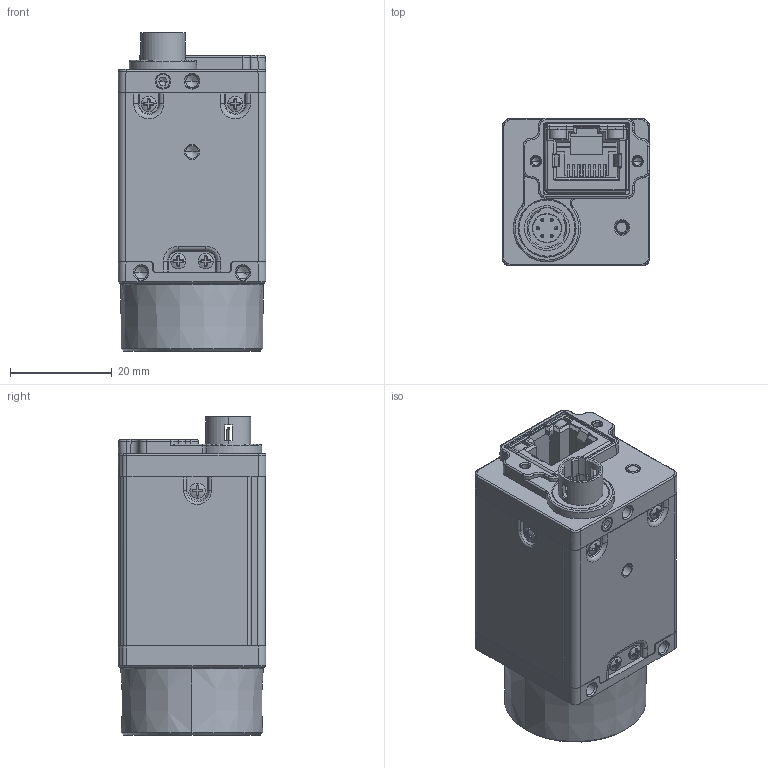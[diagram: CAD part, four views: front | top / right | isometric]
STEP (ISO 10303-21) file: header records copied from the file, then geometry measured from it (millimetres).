
FILE_DESCRIPTION((''),'2;1');
FILE_NAME('MV-CU016-10GMGC','2022-11-17T21:41:32',('zhangfeixiang8'),(''),'CREO PARAMETRIC BY PTC INC, 2020044','CREO PARAMETRIC BY PTC INC, 2020044','');
FILE_SCHEMA(('CONFIG_CONTROL_DESIGN','SHAPE_APPEARANCE_LAYERS_GROUPS'));
Products named in the file (1): MV-CU016-10GMGC
Bounding box: 29 x 29 x 62.53 mm (x, y, z)
Volume: 34346 mm3; surface area: 23958.8 mm2
Topology: 1 solids, 53 shells, 2806 faces, 7921 edges, 5170 vertices
Faces by surface type: plane 1247, cylinder 718, cone 361, bspline 259, torus 180, sphere 30, extrusion 11
Entity records: 138897 total; most frequent: CARTESIAN_POINT 44000, ORIENTED_EDGE 15440, DIRECTION 13815, EDGE_CURVE 7877, VERTEX_POINT 5170, AXIS2_PLACEMENT_3D 4991, PRESENTATION_STYLE_ASSIGNMENT 4602, STYLED_ITEM 4402
